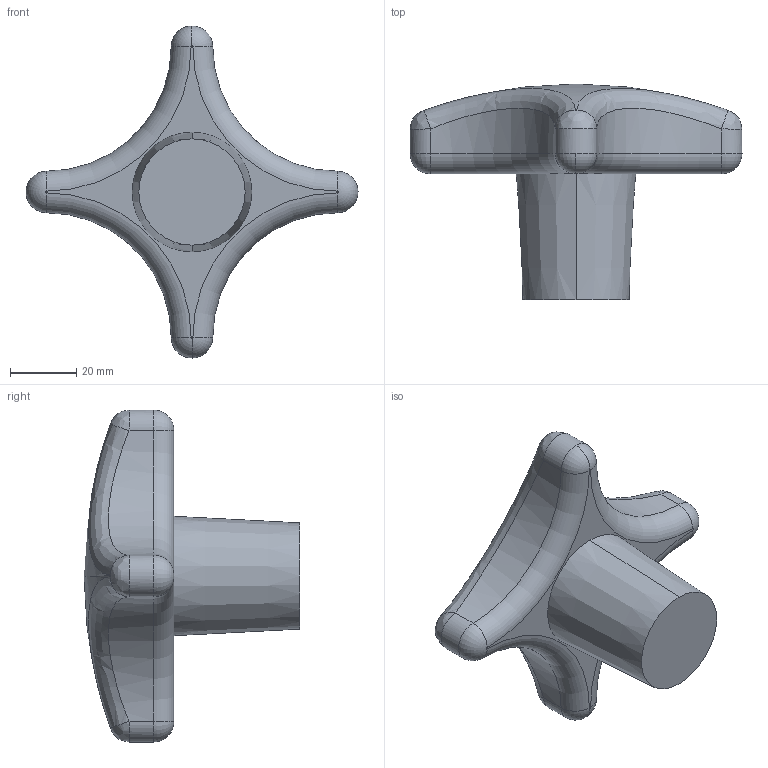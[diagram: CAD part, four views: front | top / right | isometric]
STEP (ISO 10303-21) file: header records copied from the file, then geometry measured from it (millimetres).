
FILE_DESCRIPTION (( 'STEP AP203' ), '1' );
FILE_NAME ('7000.W090.step', '2010-01-29T17:34:47', ( 'Wixroyd' ), ( 'Wixroyd' ), 'SwSTEP 2.0', 'SolidWorks 2009', '' );
FILE_SCHEMA (( 'CONFIG_CONTROL_DESIGN' ));
Length unit declared in the file: millimetre
Products named in the file (1): 7000.W090
Bounding box: 100 x 65 x 100 mm (x, y, z)
Volume: 114803.2 mm3; surface area: 16329.1 mm2
Topology: 1 solids, 1 shells, 33 faces, 74 edges, 44 vertices
Faces by surface type: torus 10, cylinder 9, bspline 8, cone 2, sphere 2, plane 2
Entity records: 7123 total; most frequent: CARTESIAN_POINT 6336, DIRECTION 151, ORIENTED_EDGE 148, EDGE_CURVE 74, AXIS2_PLACEMENT_3D 70, VERTEX_POINT 44, CIRCLE 44, EDGE_LOOP 34
